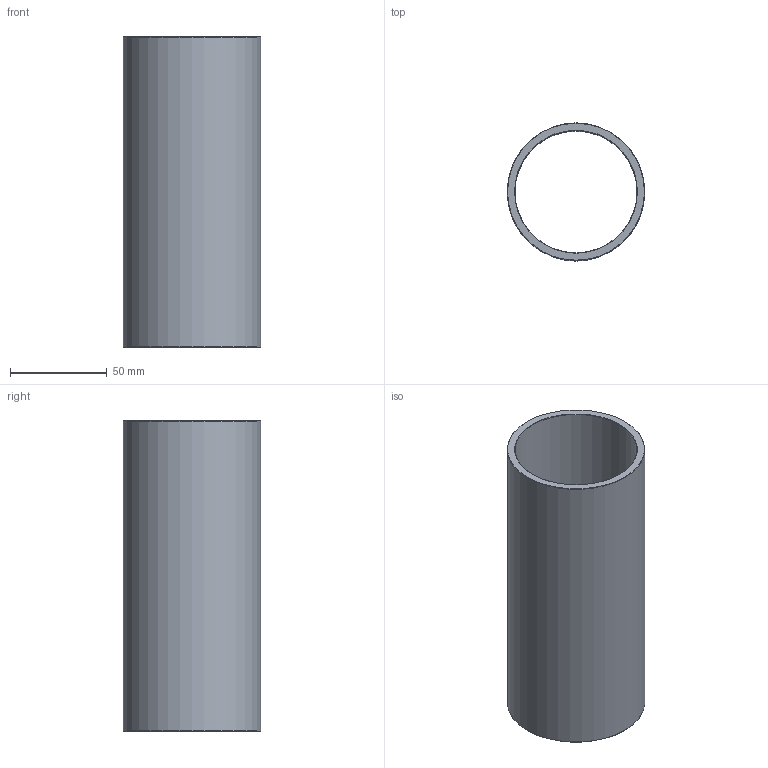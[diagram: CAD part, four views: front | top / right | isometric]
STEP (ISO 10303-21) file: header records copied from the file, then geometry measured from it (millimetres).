
FILE_DESCRIPTION(('STEP AP203'),'1');
FILE_NAME('C:/Users/Rodrigo/Desktop/GA4.063.160-1.step','2016-11-08T13:40:00',(' '),(' '),'Spatial InterOp 3D',' ',' ');
FILE_SCHEMA(('CONFIG_CONTROL_DESIGN'));
Length unit declared in the file: millimetre
Products named in the file (1): 1
Bounding box: 71 x 71 x 160 mm (x, y, z)
Volume: 134694.7 mm3; surface area: 68941 mm2
Topology: 1 solids, 1 shells, 8 faces, 14 edges, 8 vertices
Faces by surface type: cone 4, cylinder 2, plane 2
Full cylindrical faces by diameter (mm): 63 x1, 71 x1
Entity records: 212 total; most frequent: DIRECTION 34, CARTESIAN_POINT 25, AXIS2_PLACEMENT_3D 17, EDGE_LOOP 16, ORIENTED_EDGE 16, FACE_OUTER_BOUND 10, ADVANCED_FACE 8, EDGE_CURVE 8
